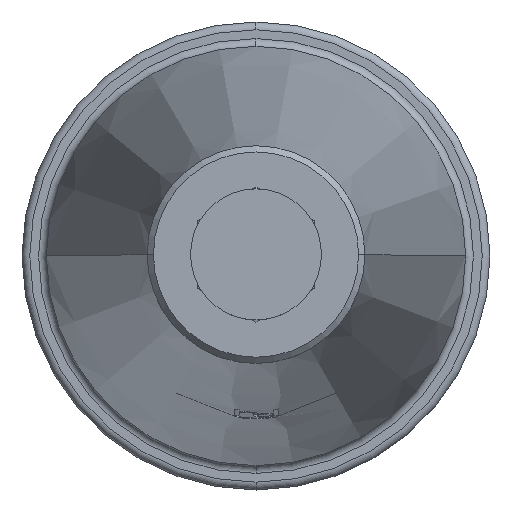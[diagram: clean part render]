
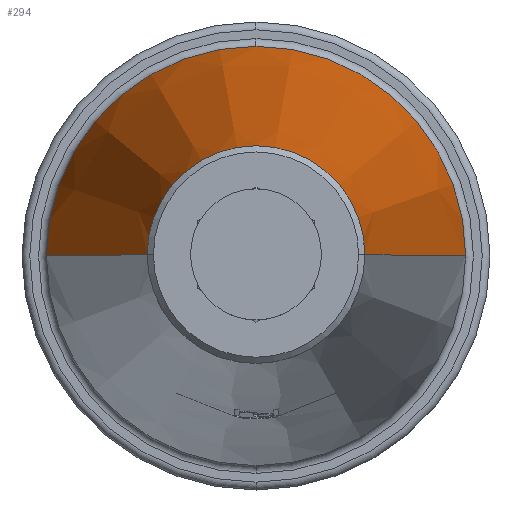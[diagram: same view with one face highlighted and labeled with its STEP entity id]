
A CAD part, top view. The second image highlights one B-rep face of the part: STEP entity #294.
In plain terms, the highlighted conical face has half-angle 7.768 degrees and reference radius 102.093 mm.
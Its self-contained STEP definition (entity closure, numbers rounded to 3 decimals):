
#294=ADVANCED_FACE('',(#609),#610,.T.);
#609=FACE_OUTER_BOUND('',#977,.T.);
#610=CONICAL_SURFACE('',#978,102.093,0.136);
#977=EDGE_LOOP('',(#1648,#1649,#1650,#1651,#1652));
#978=AXIS2_PLACEMENT_3D('',#1653,#1654,#1655);
#1648=ORIENTED_EDGE('',*,*,#2255,.T.);
#1649=ORIENTED_EDGE('',*,*,#2336,.F.);
#1650=ORIENTED_EDGE('',*,*,#2196,.F.);
#1651=ORIENTED_EDGE('',*,*,#2257,.T.);
#1652=ORIENTED_EDGE('',*,*,#2337,.T.);
#1653=CARTESIAN_POINT('',(408.211,528.029,-12.338));
#1654=DIRECTION('',(0.,0.,-1.0));
#1655=DIRECTION('',(1.0,0.,0.));
#2196=EDGE_CURVE('',#2607,#2609,#2610,.T.);
#2255=EDGE_CURVE('',#2714,#2715,#2716,.T.);
#2257=EDGE_CURVE('',#2607,#2717,#2719,.T.);
#2336=EDGE_CURVE('',#2609,#2715,#2843,.T.);
#2337=EDGE_CURVE('',#2717,#2714,#2844,.T.);
#2607=VERTEX_POINT('',#3284);
#2609=VERTEX_POINT('',#3286);
#2610=CIRCLE('',#3287,134.41);
#2714=VERTEX_POINT('',#3745);
#2715=VERTEX_POINT('',#3746);
#2716=LINE('',#3747,#3748);
#2717=VERTEX_POINT('',#3749);
#2719=LINE('',#3751,#3752);
#2843=CIRCLE('',#4236,134.41);
#2844=CIRCLE('',#4237,69.775);
#3284=CARTESIAN_POINT('',(273.801,528.029,-249.231));
#3286=CARTESIAN_POINT('',(408.211,662.439,-249.231));
#3287=AXIS2_PLACEMENT_3D('',#4554,#4555,#4556);
#3745=CARTESIAN_POINT('',(477.986,528.029,224.555));
#3746=CARTESIAN_POINT('',(542.621,528.029,-249.231));
#3747=CARTESIAN_POINT('',(510.304,528.029,-12.338));
#3748=VECTOR('',#4626,1.0);
#3749=CARTESIAN_POINT('',(338.435,528.029,224.555));
#3751=CARTESIAN_POINT('',(306.118,528.029,-12.338));
#3752=VECTOR('',#4630,1.0);
#4236=AXIS2_PLACEMENT_3D('',#4711,#4712,#4713);
#4237=AXIS2_PLACEMENT_3D('',#4714,#4715,#4716);
#4554=CARTESIAN_POINT('',(408.211,528.029,-249.231));
#4555=DIRECTION('',(0.,0.,-1.0));
#4556=DIRECTION('',(1.0,0.,0.));
#4626=DIRECTION('',(0.135,0.,-0.991));
#4630=DIRECTION('',(0.135,0.,0.991));
#4711=CARTESIAN_POINT('',(408.211,528.029,-249.231));
#4712=DIRECTION('',(0.,0.,-1.0));
#4713=DIRECTION('',(1.0,0.,0.));
#4714=CARTESIAN_POINT('',(408.211,528.029,224.555));
#4715=DIRECTION('',(0.,0.,-1.0));
#4716=DIRECTION('',(1.0,0.,0.));
